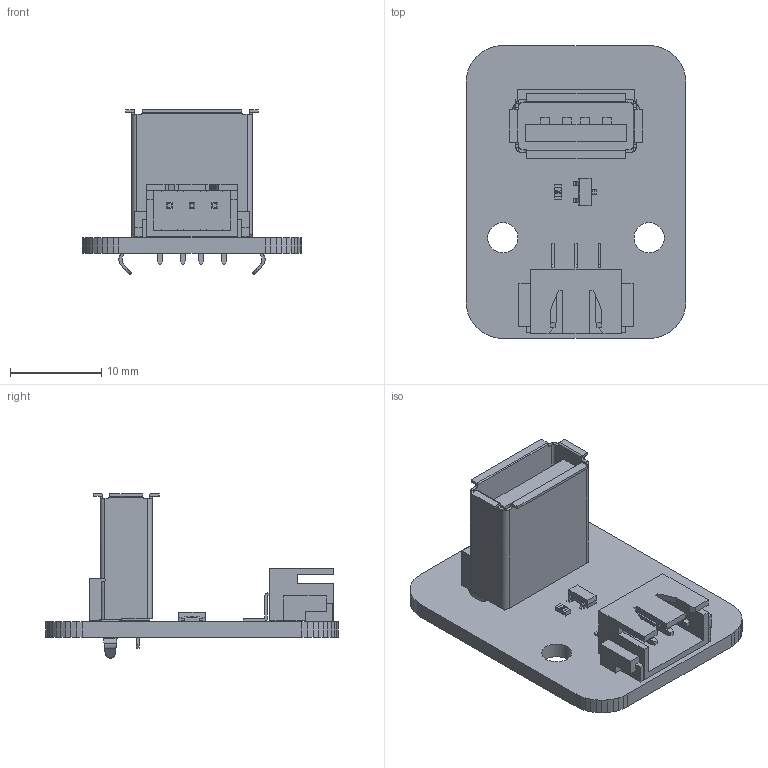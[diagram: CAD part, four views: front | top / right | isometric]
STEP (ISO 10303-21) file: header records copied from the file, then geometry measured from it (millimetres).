
FILE_DESCRIPTION(('Open CASCADE Model'),'2;1');
FILE_NAME('Open CASCADE Shape Model','2022-07-11T18:03:35',('Author'),( 'Open CASCADE'),'Open CASCADE STEP processor 6.5','Open CASCADE 6.5' ,'Unknown');
FILE_SCHEMA(('AUTOMOTIVE_DESIGN { 1 0 10303 214 1 1 1 1 }'));
Length unit declared in the file: millimetre
Products named in the file (10): PCB; Board; Q1; CircuitWorks-SOT-23; USB1; 14382; P2; 3pin-2.5; R1; 0603_R
Assembly tree (9 placements, depth 3):
  PCB
    Board
    Q1
      CircuitWorks-SOT-23
    USB1
      14382
    P2
      3pin-2.5
    R1
      0603_R
Bounding box: 24.02 x 32.02 x 17.99 mm (x, y, z)
Volume: 1993.8 mm3; surface area: 3953.8 mm2
Topology: 5 solids, 5 shells, 476 faces, 1339 edges, 884 vertices
Faces by surface type: plane 370, cylinder 101, extrusion 5
Full cylindrical faces by diameter (mm): 0.9 x4, 3.3 x2
Entity records: 39853 total; most frequent: CARTESIAN_POINT 11214, DIRECTION 4536, VECTOR 3088, LINE 3083, ORIENTED_EDGE 2678, PCURVE 2678, DEFINITIONAL_REPRESENTATION 2678, EDGE_CURVE 1339
